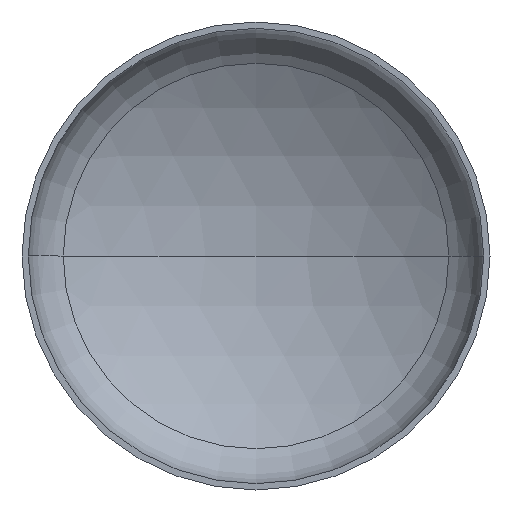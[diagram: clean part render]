
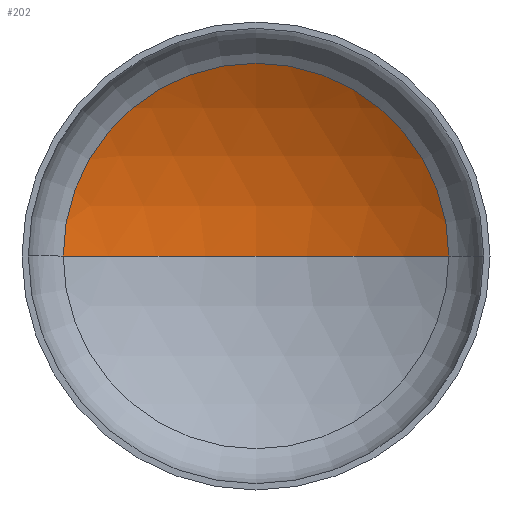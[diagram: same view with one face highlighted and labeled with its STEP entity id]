
A CAD part, front view. The second image highlights one B-rep face of the part: STEP entity #202.
In plain terms, the highlighted spherical face has radius 3200 mm.
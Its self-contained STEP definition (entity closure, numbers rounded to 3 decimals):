
#4 = AXIS2_PLACEMENT_3D ( 'NONE', #406, #220, #385 ) ;
#9 = AXIS2_PLACEMENT_3D ( 'NONE', #147, #360, #399 ) ;
#20 = EDGE_LOOP ( 'NONE', ( #61, #40, #268 ) ) ;
#32 = VERTEX_POINT ( 'NONE', #289 ) ;
#40 = ORIENTED_EDGE ( 'NONE', *, *, #369, .T. ) ;
#41 = VERTEX_POINT ( 'NONE', #370 ) ;
#46 = VERTEX_POINT ( 'NONE', #241 ) ;
#50 = AXIS2_PLACEMENT_3D ( 'NONE', #207, #206, #59 ) ;
#59 = DIRECTION ( 'NONE',  ( -1., 0., 0. ) ) ;
#61 = ORIENTED_EDGE ( 'NONE', *, *, #354, .F. ) ;
#95 = SPHERICAL_SURFACE ( 'NONE', #50, 3200. ) ;
#133 = CIRCLE ( 'NONE', #390, 1647.66 ) ;
#145 = CIRCLE ( 'NONE', #4, 3200. ) ;
#147 = CARTESIAN_POINT ( 'NONE',  ( 0., -2096.002, 0. ) ) ;
#154 = CIRCLE ( 'NONE', #9, 3200. ) ;
#195 = CARTESIAN_POINT ( 'NONE',  ( 0., 647.211, 0. ) ) ;
#196 = DIRECTION ( 'NONE',  ( 0., -1., 0. ) ) ;
#202 = ADVANCED_FACE ( 'NONE', ( #240 ), #95, .F. ) ;
#206 = DIRECTION ( 'NONE',  ( 0., 0., -1. ) ) ;
#207 = CARTESIAN_POINT ( 'NONE',  ( 0., -2096.002, 0. ) ) ;
#220 = DIRECTION ( 'NONE',  ( 0., 0., -1. ) ) ;
#240 = FACE_OUTER_BOUND ( 'NONE', #20, .T. ) ;
#241 = CARTESIAN_POINT ( 'NONE',  ( -1647.66, 647.211, 0. ) ) ;
#268 = ORIENTED_EDGE ( 'NONE', *, *, #372, .T. ) ;
#289 = CARTESIAN_POINT ( 'NONE',  ( 1647.66, 647.211, 0. ) ) ;
#354 = EDGE_CURVE ( 'NONE', #41, #46, #154, .T. ) ;
#360 = DIRECTION ( 'NONE',  ( 0., 0., 1. ) ) ;
#367 = DIRECTION ( 'NONE',  ( 1., 0., 0. ) ) ;
#369 = EDGE_CURVE ( 'NONE', #41, #32, #145, .T. ) ;
#370 = CARTESIAN_POINT ( 'NONE',  ( 0., 1103.998, 0. ) ) ;
#372 = EDGE_CURVE ( 'NONE', #32, #46, #133, .T. ) ;
#385 = DIRECTION ( 'NONE',  ( -1., 0., 0. ) ) ;
#390 = AXIS2_PLACEMENT_3D ( 'NONE', #195, #196, #367 ) ;
#399 = DIRECTION ( 'NONE',  ( 1., 0., 0. ) ) ;
#406 = CARTESIAN_POINT ( 'NONE',  ( 0., -2096.002, 0. ) ) ;
